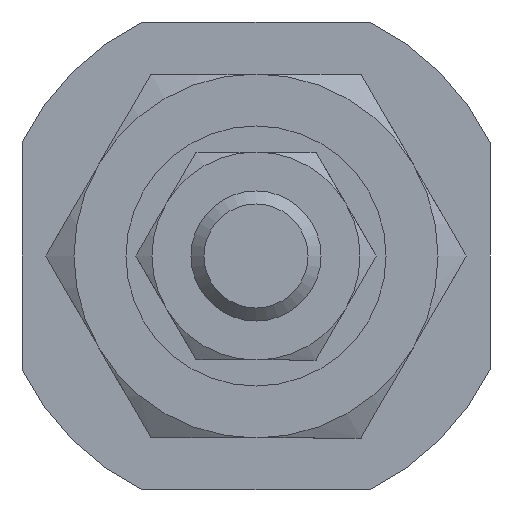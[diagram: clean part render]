
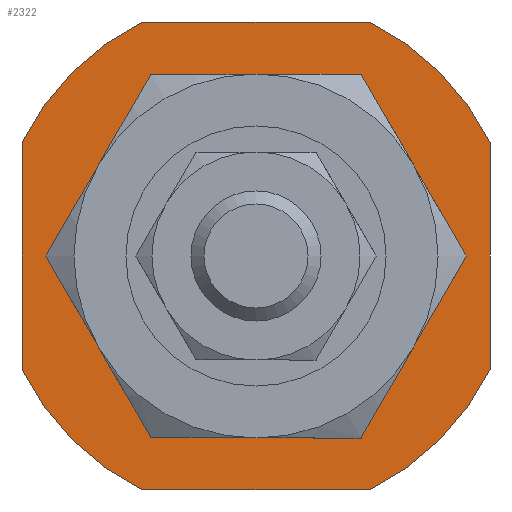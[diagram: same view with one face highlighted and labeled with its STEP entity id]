
A CAD part, left-side view. The second image highlights one B-rep face of the part: STEP entity #2322.
In plain terms, the highlighted planar face has unit normal (-1, 0, 0).
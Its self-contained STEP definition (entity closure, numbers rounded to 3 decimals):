
#1926=CARTESIAN_POINT('',(-125.899,-4.359,9.));
#1927=VERTEX_POINT('',#1926);
#1942=CARTESIAN_POINT('',(-125.899,4.359,9.0));
#1943=VERTEX_POINT('',#1942);
#1950=CARTESIAN_POINT('',(-125.899,-4.359,9.));
#1951=DIRECTION('',(0.0,1.0,0.0));
#1952=VECTOR('',#1951,8.718);
#1953=LINE('',#1950,#1952);
#1954=EDGE_CURVE('',#1927,#1943,#1953,.T.);
#2003=CARTESIAN_POINT('',(-125.899,4.359,-9.0));
#2004=VERTEX_POINT('',#2003);
#2019=CARTESIAN_POINT('',(-125.899,-4.359,-9.));
#2020=VERTEX_POINT('',#2019);
#2027=CARTESIAN_POINT('',(-125.899,4.359,-9.0));
#2028=DIRECTION('',(0.0,-1.0,0.0));
#2029=VECTOR('',#2028,8.718);
#2030=LINE('',#2027,#2029);
#2031=EDGE_CURVE('',#2004,#2020,#2030,.T.);
#2043=CARTESIAN_POINT('',(-125.899,-9.,-4.359));
#2044=VERTEX_POINT('',#2043);
#2059=CARTESIAN_POINT('',(-125.899,-9.,4.359));
#2060=VERTEX_POINT('',#2059);
#2067=CARTESIAN_POINT('',(-125.899,-9.,-4.359));
#2068=DIRECTION('',(0.0,0.0,1.0));
#2069=VECTOR('',#2068,8.718);
#2070=LINE('',#2067,#2069);
#2071=EDGE_CURVE('',#2044,#2060,#2070,.T.);
#2083=CARTESIAN_POINT('',(-125.899,9.,4.359));
#2084=VERTEX_POINT('',#2083);
#2099=CARTESIAN_POINT('',(-125.899,9.,-4.359));
#2100=VERTEX_POINT('',#2099);
#2107=CARTESIAN_POINT('',(-125.899,9.,4.359));
#2108=DIRECTION('',(0.0,0.0,-1.0));
#2109=VECTOR('',#2108,8.718);
#2110=LINE('',#2107,#2109);
#2111=EDGE_CURVE('',#2084,#2100,#2110,.T.);
#2232=CARTESIAN_POINT('',(-125.899,0.,0.0));
#2233=DIRECTION('',(-1.0,0.,0.0));
#2234=DIRECTION('',(0.,1.0,0.0));
#2235=AXIS2_PLACEMENT_3D('',#2232,#2233,#2234);
#2236=CIRCLE('',#2235,10.);
#2237=EDGE_CURVE('',#1943,#2084,#2236,.T.);
#2256=CARTESIAN_POINT('',(-125.899,0.,0.0));
#2257=DIRECTION('',(-1.0,0.,0.0));
#2258=DIRECTION('',(0.,1.0,0.0));
#2259=AXIS2_PLACEMENT_3D('',#2256,#2257,#2258);
#2260=CIRCLE('',#2259,10.);
#2261=EDGE_CURVE('',#2020,#2044,#2260,.T.);
#2272=CARTESIAN_POINT('',(-125.899,0.,0.0));
#2273=DIRECTION('',(-1.0,0.,0.0));
#2274=DIRECTION('',(0.,1.0,0.0));
#2275=AXIS2_PLACEMENT_3D('',#2272,#2273,#2274);
#2276=CIRCLE('',#2275,10.);
#2277=EDGE_CURVE('',#2100,#2004,#2276,.T.);
#2290=CARTESIAN_POINT('',(-125.899,7.5,0.0));
#2291=DIRECTION('',(-1.0,0.0,0.0));
#2292=DIRECTION('',(0.0,0.0,1.0));
#2293=AXIS2_PLACEMENT_3D('',#2290,#2291,#2292);
#2294=PLANE('',#2293);
#2295=ORIENTED_EDGE('',*,*,#1954,.T.);
#2296=ORIENTED_EDGE('',*,*,#2237,.T.);
#2297=ORIENTED_EDGE('',*,*,#2111,.T.);
#2298=ORIENTED_EDGE('',*,*,#2277,.T.);
#2299=ORIENTED_EDGE('',*,*,#2031,.T.);
#2300=ORIENTED_EDGE('',*,*,#2261,.T.);
#2301=ORIENTED_EDGE('',*,*,#2071,.T.);
#2302=CARTESIAN_POINT('',(-125.899,0.,0.0));
#2303=DIRECTION('',(-1.0,0.,0.0));
#2304=DIRECTION('',(0.,1.0,0.0));
#2305=AXIS2_PLACEMENT_3D('',#2302,#2303,#2304);
#2306=CIRCLE('',#2305,10.);
#2307=EDGE_CURVE('',#2060,#1927,#2306,.T.);
#2308=ORIENTED_EDGE('',*,*,#2307,.T.);
#2309=EDGE_LOOP('',(#2295,#2296,#2297,#2298,#2299,#2300,#2301,#2308));
#2310=FACE_OUTER_BOUND('',#2309,.T.);
#2311=CARTESIAN_POINT('',(-125.899,5.,0.0));
#2312=VERTEX_POINT('',#2311);
#2313=CARTESIAN_POINT('',(-125.899,0.,0.0));
#2314=DIRECTION('',(-1.0,0.,0.0));
#2315=DIRECTION('',(0.,1.0,0.0));
#2316=AXIS2_PLACEMENT_3D('',#2313,#2314,#2315);
#2317=CIRCLE('',#2316,5.);
#2318=EDGE_CURVE('',#2312,#2312,#2317,.T.);
#2319=ORIENTED_EDGE('',*,*,#2318,.F.);
#2320=EDGE_LOOP('',(#2319));
#2321=FACE_BOUND('',#2320,.T.);
#2322=ADVANCED_FACE('',(#2310,#2321),#2294,.T.);
